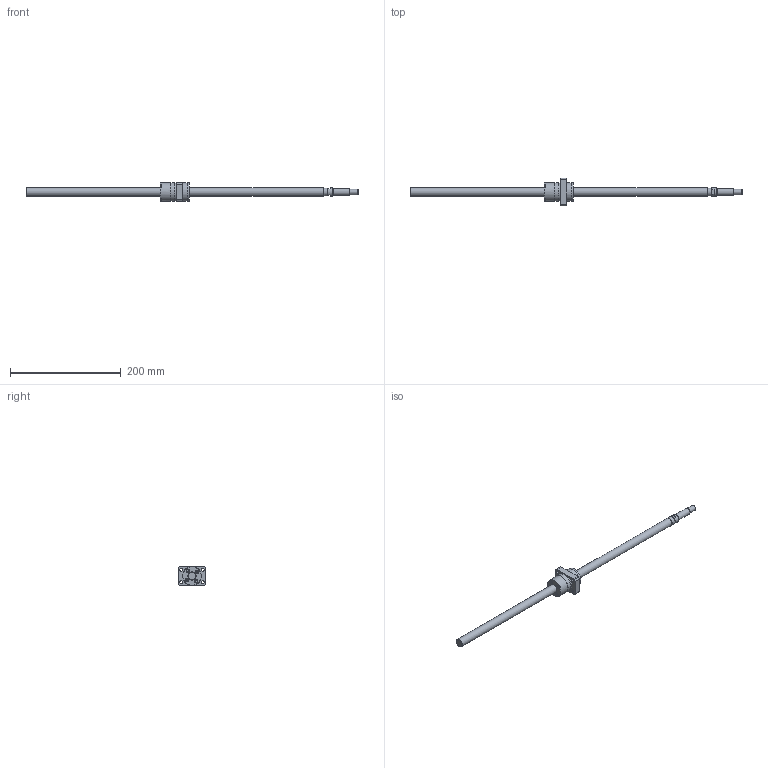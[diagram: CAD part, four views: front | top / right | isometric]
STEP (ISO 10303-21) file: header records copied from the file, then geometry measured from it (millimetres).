
FILE_DESCRIPTION( ( 'STEP AP214' ), '1' );
FILE_NAME( 'p:/temp/worker_10/3624_3216/app_90_12015063014420315719218260eae72_00_00_00_000/STEP/SG1520-537R600C5A1X_243__2_14.stp', ' ', ( ' ' ), ( ' ' ), 'PSStep 15.0.47', 'PARTsolutions', ' ' );
FILE_SCHEMA( ( 'AUTOMOTIVE_DESIGN { 1 0 10303 214 1 1 1 1 }' ) );
Length unit declared in the file: millimetre
Products named in the file (3): SG1520-537R600C5A1X(243); _SG1520-537R600C5A_shaft; _SG1520 C5_nut
Assembly tree (2 placements, depth 2):
  SG1520-537R600C5A1X(243)
    _SG1520-537R600C5A_shaft
    _SG1520 C5_nut
Bounding box: 600 x 50 x 34 mm (x, y, z)
Volume: 145886 mm3; surface area: 40919.9 mm2
Topology: 2 solids, 2 shells, 114 faces, 257 edges, 166 vertices
Faces by surface type: plane 73, cylinder 33, cone 7, torus 1
Full cylindrical faces by diameter (mm): 2 x1, 4.917 x1, 5.5 x8, 9.5 x4, 10 x1, 12 x1, 14.387 x1, 15 x3, 33.5 x3, 34 x2
Entity records: 4008 total; most frequent: DIRECTION 540, CARTESIAN_POINT 534, ORIENTED_EDGE 442, EDGE_CURVE 221, AXIS2_PLACEMENT_3D 203, EDGE_LOOP 178, VERTEX_POINT 163, FACE_OUTER_BOUND 140
